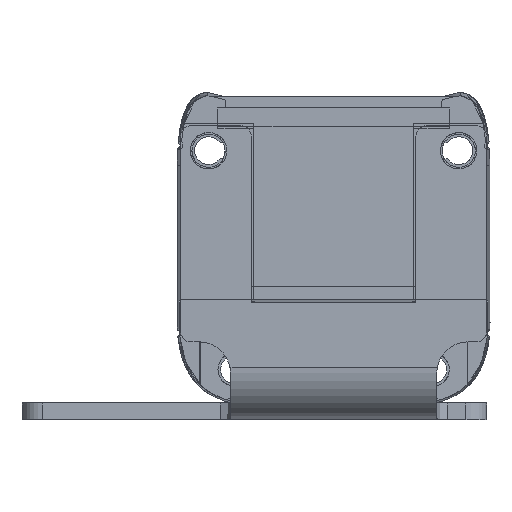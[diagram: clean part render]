
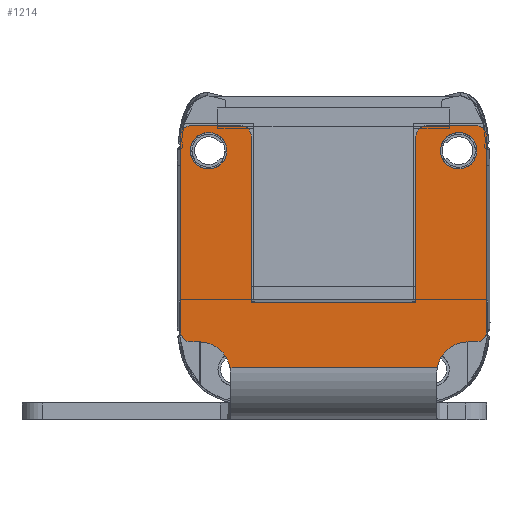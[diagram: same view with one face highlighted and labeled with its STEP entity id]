
A CAD part, front view. The second image highlights one B-rep face of the part: STEP entity #1214.
In plain terms, the highlighted planar face has unit normal (0, -1, 0).
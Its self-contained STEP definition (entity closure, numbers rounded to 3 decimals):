
#1214=ADVANCED_FACE('',(#1904,#1905,#1906),#1492,.T.);
#1492=PLANE('',#9447);
#1797=CIRCLE('',#9437,3.);
#1798=CIRCLE('',#9438,1.);
#1799=CIRCLE('',#9439,1.);
#1800=CIRCLE('',#9440,1.);
#1801=CIRCLE('',#9441,1.);
#1802=CIRCLE('',#9442,1.);
#1803=CIRCLE('',#9443,1.);
#1804=CIRCLE('',#9444,3.);
#1805=CIRCLE('',#9445,1.75);
#1806=CIRCLE('',#9446,1.75);
#1904=FACE_BOUND('',#2370,.T.);
#1905=FACE_BOUND('',#2371,.T.);
#1906=FACE_BOUND('',#2372,.T.);
#2370=EDGE_LOOP('',(#4747,#4748,#4749,#4750,#4751,#4752,#4753,#4754,#4755,
#4756,#4757,#4758,#4759,#4760,#4761,#4762,#4763,#4764));
#2371=EDGE_LOOP('',(#4765));
#2372=EDGE_LOOP('',(#4766));
#4747=ORIENTED_EDGE('',*,*,#6984,.T.);
#4748=ORIENTED_EDGE('',*,*,#6985,.F.);
#4749=ORIENTED_EDGE('',*,*,#6986,.T.);
#4750=ORIENTED_EDGE('',*,*,#6987,.T.);
#4751=ORIENTED_EDGE('',*,*,#6988,.T.);
#4752=ORIENTED_EDGE('',*,*,#6989,.T.);
#4753=ORIENTED_EDGE('',*,*,#6990,.T.);
#4754=ORIENTED_EDGE('',*,*,#6991,.F.);
#4755=ORIENTED_EDGE('',*,*,#6992,.F.);
#4756=ORIENTED_EDGE('',*,*,#6993,.T.);
#4757=ORIENTED_EDGE('',*,*,#6994,.T.);
#4758=ORIENTED_EDGE('',*,*,#6995,.F.);
#4759=ORIENTED_EDGE('',*,*,#6996,.T.);
#4760=ORIENTED_EDGE('',*,*,#6997,.F.);
#4761=ORIENTED_EDGE('',*,*,#6998,.T.);
#4762=ORIENTED_EDGE('',*,*,#6999,.T.);
#4763=ORIENTED_EDGE('',*,*,#7000,.T.);
#4764=ORIENTED_EDGE('',*,*,#7001,.T.);
#4765=ORIENTED_EDGE('',*,*,#7002,.F.);
#4766=ORIENTED_EDGE('',*,*,#7003,.T.);
#5758=VERTEX_POINT('',#15443);
#5759=VERTEX_POINT('',#15444);
#5760=VERTEX_POINT('',#15446);
#5761=VERTEX_POINT('',#15448);
#5762=VERTEX_POINT('',#15450);
#5763=VERTEX_POINT('',#15452);
#5764=VERTEX_POINT('',#15454);
#5765=VERTEX_POINT('',#15456);
#5766=VERTEX_POINT('',#15458);
#5767=VERTEX_POINT('',#15460);
#5768=VERTEX_POINT('',#15462);
#5769=VERTEX_POINT('',#15464);
#5770=VERTEX_POINT('',#15466);
#5771=VERTEX_POINT('',#15468);
#5772=VERTEX_POINT('',#15470);
#5773=VERTEX_POINT('',#15472);
#5774=VERTEX_POINT('',#15474);
#5775=VERTEX_POINT('',#15476);
#5776=VERTEX_POINT('',#15479);
#5777=VERTEX_POINT('',#15481);
#6984=EDGE_CURVE('',#5758,#5759,#1797,.T.);
#6985=EDGE_CURVE('',#5760,#5759,#7863,.T.);
#6986=EDGE_CURVE('',#5760,#5761,#1798,.T.);
#6987=EDGE_CURVE('',#5761,#5762,#7864,.T.);
#6988=EDGE_CURVE('',#5762,#5763,#1799,.T.);
#6989=EDGE_CURVE('',#5763,#5764,#7865,.T.);
#6990=EDGE_CURVE('',#5764,#5765,#1800,.T.);
#6991=EDGE_CURVE('',#5766,#5765,#7866,.T.);
#6992=EDGE_CURVE('',#5767,#5766,#7867,.T.);
#6993=EDGE_CURVE('',#5767,#5768,#7868,.T.);
#6994=EDGE_CURVE('',#5768,#5769,#1801,.T.);
#6995=EDGE_CURVE('',#5770,#5769,#7869,.T.);
#6996=EDGE_CURVE('',#5770,#5771,#1802,.T.);
#6997=EDGE_CURVE('',#5772,#5771,#7870,.T.);
#6998=EDGE_CURVE('',#5772,#5773,#1803,.T.);
#6999=EDGE_CURVE('',#5773,#5774,#7871,.T.);
#7000=EDGE_CURVE('',#5774,#5775,#1804,.T.);
#7001=EDGE_CURVE('',#5775,#5758,#7872,.T.);
#7002=EDGE_CURVE('',#5776,#5776,#1805,.T.);
#7003=EDGE_CURVE('',#5777,#5777,#1806,.T.);
#7863=LINE('',#15445,#8719);
#7864=LINE('',#15449,#8720);
#7865=LINE('',#15453,#8721);
#7866=LINE('',#15457,#8722);
#7867=LINE('',#15459,#8723);
#7868=LINE('',#15461,#8724);
#7869=LINE('',#15465,#8725);
#7870=LINE('',#15469,#8726);
#7871=LINE('',#15473,#8727);
#7872=LINE('',#15477,#8728);
#8719=VECTOR('',#11638,1.);
#8720=VECTOR('',#11641,1.);
#8721=VECTOR('',#11644,1.);
#8722=VECTOR('',#11647,1.);
#8723=VECTOR('',#11648,1.);
#8724=VECTOR('',#11649,1.);
#8725=VECTOR('',#11652,1.);
#8726=VECTOR('',#11655,1.);
#8727=VECTOR('',#11658,1.);
#8728=VECTOR('',#11661,1.);
#9437=AXIS2_PLACEMENT_3D('',#15442,#11636,#11637);
#9438=AXIS2_PLACEMENT_3D('',#15447,#11639,#11640);
#9439=AXIS2_PLACEMENT_3D('',#15451,#11642,#11643);
#9440=AXIS2_PLACEMENT_3D('',#15455,#11645,#11646);
#9441=AXIS2_PLACEMENT_3D('',#15463,#11650,#11651);
#9442=AXIS2_PLACEMENT_3D('',#15467,#11653,#11654);
#9443=AXIS2_PLACEMENT_3D('',#15471,#11656,#11657);
#9444=AXIS2_PLACEMENT_3D('',#15475,#11659,#11660);
#9445=AXIS2_PLACEMENT_3D('',#15478,#11662,#11663);
#9446=AXIS2_PLACEMENT_3D('',#15480,#11664,#11665);
#9447=AXIS2_PLACEMENT_3D('',#15482,#11666,#11667);
#11636=DIRECTION('',(0.,1.,0.));
#11637=DIRECTION('',(0.,0.,1.));
#11638=DIRECTION('',(-1.,0.,0.));
#11639=DIRECTION('',(0.,-1.,0.));
#11640=DIRECTION('',(0.,0.,1.));
#11641=DIRECTION('',(0.,0.,1.));
#11642=DIRECTION('',(0.,-1.,0.));
#11643=DIRECTION('',(0.,0.,-1.));
#11644=DIRECTION('',(-1.,0.,0.));
#11645=DIRECTION('',(0.,-1.,0.));
#11646=DIRECTION('',(0.,0.,-1.));
#11647=DIRECTION('',(0.,0.,1.));
#11648=DIRECTION('',(1.,0.,0.));
#11649=DIRECTION('',(0.,0.,1.));
#11650=DIRECTION('',(0.,-1.,0.));
#11651=DIRECTION('',(0.,0.,1.));
#11652=DIRECTION('',(1.,0.,0.));
#11653=DIRECTION('',(0.,-1.,0.));
#11654=DIRECTION('',(0.,0.,1.));
#11655=DIRECTION('',(0.,0.,1.));
#11656=DIRECTION('',(0.,-1.,0.));
#11657=DIRECTION('',(0.,0.,1.));
#11658=DIRECTION('',(1.,0.,0.));
#11659=DIRECTION('',(0.,1.,0.));
#11660=DIRECTION('',(0.,0.,1.));
#11661=DIRECTION('',(1.,0.,0.));
#11662=DIRECTION('',(0.,-1.,0.));
#11663=DIRECTION('',(0.,0.,1.));
#11664=DIRECTION('',(0.,1.,0.));
#11665=DIRECTION('',(0.,0.,-1.));
#11666=DIRECTION('',(0.,-1.,0.));
#11667=DIRECTION('',(1.,0.,0.));
#15442=CARTESIAN_POINT('',(12.89,105.8,-139.533));
#15443=CARTESIAN_POINT('',(9.939,105.8,-138.994));
#15444=CARTESIAN_POINT('',(12.89,105.8,-136.533));
#15445=CARTESIAN_POINT('',(-7.89,105.8,-136.533));
#15446=CARTESIAN_POINT('',(13.69,105.8,-136.533));
#15447=CARTESIAN_POINT('',(13.69,105.8,-135.533));
#15448=CARTESIAN_POINT('',(14.69,105.8,-135.533));
#15449=CARTESIAN_POINT('',(14.69,105.8,-115.6));
#15450=CARTESIAN_POINT('',(14.69,105.8,-116.8));
#15451=CARTESIAN_POINT('',(13.69,105.8,-116.8));
#15452=CARTESIAN_POINT('',(13.69,105.8,-115.8));
#15453=CARTESIAN_POINT('',(7.89,105.8,-115.8));
#15454=CARTESIAN_POINT('',(8.89,105.8,-115.8));
#15455=CARTESIAN_POINT('',(8.89,105.8,-116.8));
#15456=CARTESIAN_POINT('',(7.89,105.8,-116.8));
#15457=CARTESIAN_POINT('',(7.89,105.8,-115.6));
#15458=CARTESIAN_POINT('',(7.89,105.8,-132.733));
#15459=CARTESIAN_POINT('',(-9.89,105.8,-132.733));
#15460=CARTESIAN_POINT('',(-7.89,105.8,-132.733));
#15461=CARTESIAN_POINT('',(-7.89,105.8,-115.6));
#15462=CARTESIAN_POINT('',(-7.89,105.8,-116.8));
#15463=CARTESIAN_POINT('',(-8.89,105.8,-116.8));
#15464=CARTESIAN_POINT('',(-8.89,105.8,-115.8));
#15465=CARTESIAN_POINT('',(-7.89,105.8,-115.8));
#15466=CARTESIAN_POINT('',(-13.69,105.8,-115.8));
#15467=CARTESIAN_POINT('',(-13.69,105.8,-116.8));
#15468=CARTESIAN_POINT('',(-14.69,105.8,-116.8));
#15469=CARTESIAN_POINT('',(-14.69,105.8,-115.6));
#15470=CARTESIAN_POINT('',(-14.69,105.8,-135.533));
#15471=CARTESIAN_POINT('',(-13.69,105.8,-135.533));
#15472=CARTESIAN_POINT('',(-13.69,105.8,-136.533));
#15473=CARTESIAN_POINT('',(-7.89,105.8,-136.533));
#15474=CARTESIAN_POINT('',(-12.89,105.8,-136.533));
#15475=CARTESIAN_POINT('',(-12.89,105.8,-139.533));
#15476=CARTESIAN_POINT('',(-9.939,105.8,-138.994));
#15477=CARTESIAN_POINT('',(-9.89,105.8,-138.994));
#15478=CARTESIAN_POINT('',(-12.,105.8,-118.2));
#15479=CARTESIAN_POINT('',(-12.,105.8,-116.45));
#15480=CARTESIAN_POINT('',(12.,105.8,-118.2));
#15481=CARTESIAN_POINT('',(12.,105.8,-119.95));
#15482=CARTESIAN_POINT('',(-9.89,105.8,-142.394));
